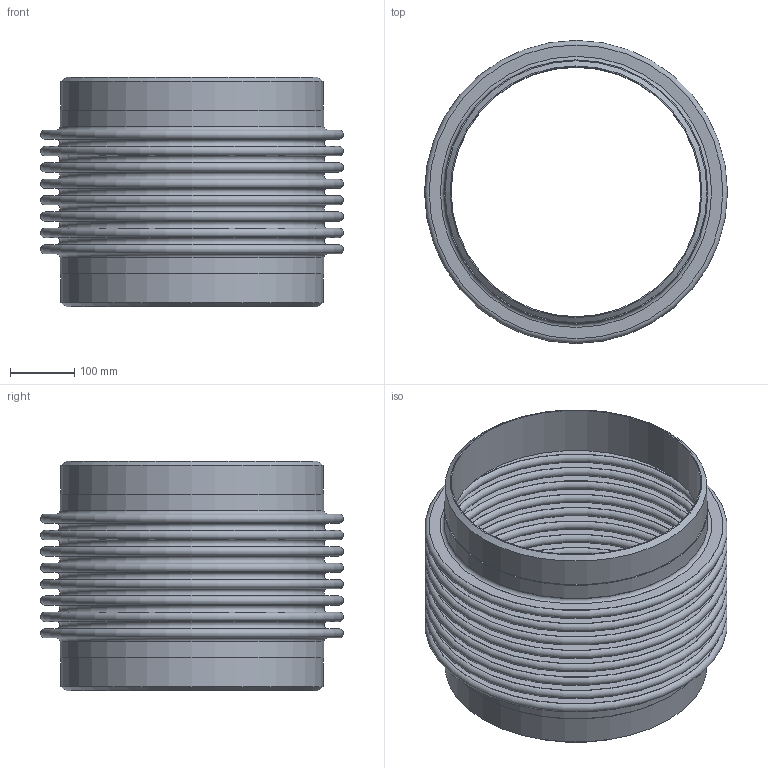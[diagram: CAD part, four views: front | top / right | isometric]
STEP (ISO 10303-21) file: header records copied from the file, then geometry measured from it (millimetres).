
FILE_DESCRIPTION(/* description */ (''),/* implementation_level */ '2;1');
FILE_NAME(/* name */ 'PIPE- 16 - 150 PSIG ASSEMBLY PART.stp',/* time_stamp */ '2026-07-24T15:43:47-05:00',/* author */ ('jorgef'),/* organization */ (''),/* preprocessor_version */ 'ST-DEVELOPER v20.1',/* originating_system */ 'Autodesk Inventor 2026',/* authorisation */ '');
FILE_SCHEMA (('AUTOMOTIVE_DESIGN { 1 0 10303 214 3 1 1 }'));
Length unit declared in the file: inch
Products named in the file (1): PIPE- 16 - 150 PSIG ASSEMBLY PART
Bounding box: 469.9 x 469.9 x 355.6 mm (x, y, z)
Volume: 3106017 mm3; surface area: 2072241.2 mm2
Topology: 1 solids, 1 shells, 80 faces, 126 edges, 84 vertices
Faces by surface type: plane 38, torus 34, cylinder 6, cone 2
Full cylindrical faces by diameter (mm): 387.35 x2, 406.4 x2, 409.448 x2
Entity records: 2035 total; most frequent: DIRECTION 406, CARTESIAN_POINT 291, ORIENTED_EDGE 252, AXIS2_PLACEMENT_3D 199, EDGE_CURVE 126, EDGE_LOOP 118, CIRCLE 118, VERTEX_POINT 84
